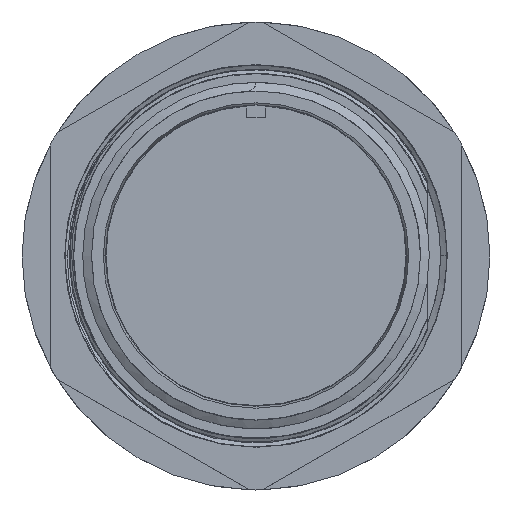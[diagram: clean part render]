
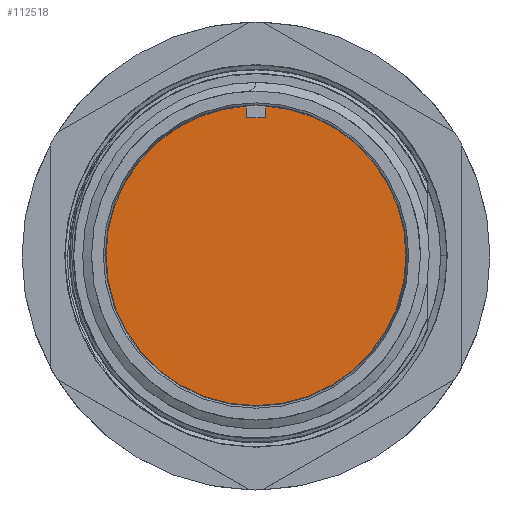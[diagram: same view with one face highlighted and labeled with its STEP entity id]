
A CAD part, top view. The second image highlights one B-rep face of the part: STEP entity #112518.
In plain terms, the highlighted planar face has unit normal (0, 0, 1).
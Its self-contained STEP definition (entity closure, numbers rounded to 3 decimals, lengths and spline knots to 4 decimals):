
#764 = CARTESIAN_POINT ( 'NONE',  ( -0.5925, 0., -0.5629 ) ) ;
#3217 = AXIS2_PLACEMENT_3D ( 'NONE', #92412, #72540, #46566 ) ;
#8394 = EDGE_CURVE ( 'NONE', #58604, #79195, #39729, .T. ) ;
#9856 = DIRECTION ( 'NONE',  ( 0., 0., 1. ) ) ;
#27375 = DIRECTION ( 'NONE',  ( 1., 0., 0. ) ) ;
#28210 = EDGE_LOOP ( 'NONE', ( #32755, #114434 ) ) ;
#32755 = ORIENTED_EDGE ( 'NONE', *, *, #40451, .T. ) ;
#39729 = CIRCLE ( 'NONE', #76326, 0.5925 ) ;
#40451 = EDGE_CURVE ( 'NONE', #79195, #58604, #47460, .T. ) ;
#46566 = DIRECTION ( 'NONE',  ( 1., 0., 0. ) ) ;
#47460 = CIRCLE ( 'NONE', #3217, 0.5925 ) ;
#51008 = CARTESIAN_POINT ( 'NONE',  ( 0.5925, 0., -0.5629 ) ) ;
#55701 = FACE_OUTER_BOUND ( 'NONE', #28210, .T. ) ;
#58604 = VERTEX_POINT ( 'NONE', #764 ) ;
#62389 = CARTESIAN_POINT ( 'NONE',  ( 0., 0., -0.5629 ) ) ;
#66102 = DIRECTION ( 'NONE',  ( 0., 0., 1. ) ) ;
#72540 = DIRECTION ( 'NONE',  ( 0., 0., 1. ) ) ;
#73783 = PLANE ( 'NONE',  #110279 ) ;
#76326 = AXIS2_PLACEMENT_3D ( 'NONE', #112541, #66102, #111937 ) ;
#79195 = VERTEX_POINT ( 'NONE', #51008 ) ;
#92412 = CARTESIAN_POINT ( 'NONE',  ( 0., 0., -0.5629 ) ) ;
#110279 = AXIS2_PLACEMENT_3D ( 'NONE', #62389, #9856, #27375 ) ;
#111937 = DIRECTION ( 'NONE',  ( 1., 0., 0. ) ) ;
#112518 = ADVANCED_FACE ( 'NONE', ( #55701 ), #73783, .T. ) ;
#112541 = CARTESIAN_POINT ( 'NONE',  ( 0., 0., -0.5629 ) ) ;
#114434 = ORIENTED_EDGE ( 'NONE', *, *, #8394, .T. ) ;
